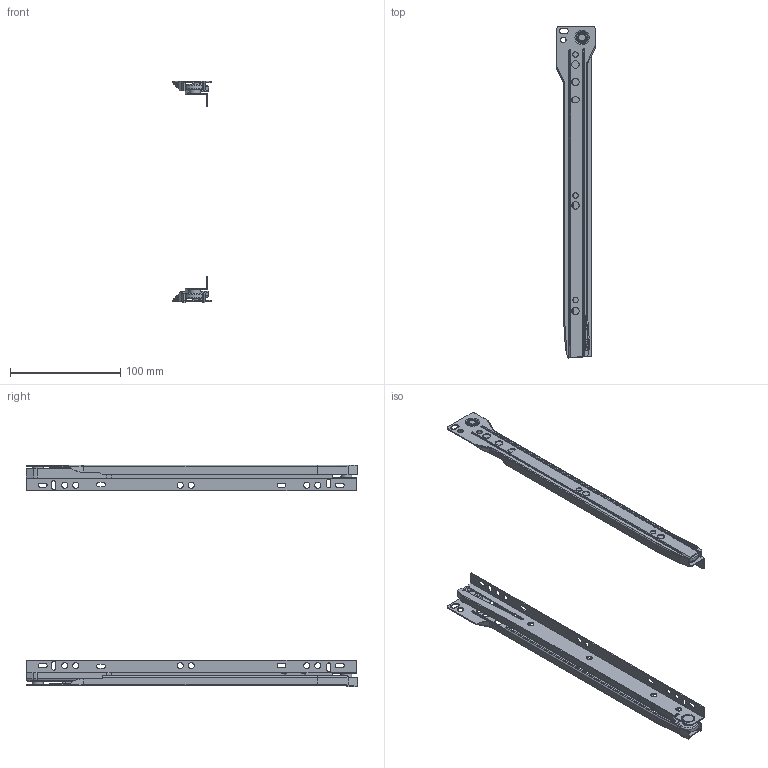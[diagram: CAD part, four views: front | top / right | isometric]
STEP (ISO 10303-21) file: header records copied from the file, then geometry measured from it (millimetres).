
FILE_DESCRIPTION(/* description */ (''),/* implementation_level */ '2;1');
FILE_NAME(/* name */ 'C:\Users\dmitruk\Documents\WORK\НАПРАВЛЯЮЩИЕ\Роликовые\Направляющие роликовая AKS 0.9 mm\Направляющие роликовая AKS 0.9 mm-300.stp',/* time_stamp */ '2022-07-29T15:04:54+03:00',/* author */ ('dmitruk'),/* organization */ (''),/* preprocessor_version */ 'ST-DEVELOPER v16.5',/* originating_system */ 'Autodesk Inventor 2017',/* authorisation */ '');
FILE_SCHEMA (('AUTOMOTIVE_DESIGN { 1 0 10303 214 3 1 1 }'));
Length unit declared in the file: millimetre
Products named in the file (5): Направляющие 
роликовая AKS 0.9 mm; rol_cr_09; rol_cl_09-01; rol_dr_09; rol_dl_09
Assembly tree (4 placements, depth 2):
  Направляющие 
роликовая AKS 0.9 mm
    rol_cr_09
    rol_cl_09-01
    rol_dr_09
    rol_dl_09
Bounding box: 35 x 301.38 x 201 mm (x, y, z)
Volume: 47018.4 mm3; surface area: 92384.1 mm2
Topology: 4 solids, 6 shells, 538 faces, 1391 edges, 872 vertices
Faces by surface type: plane 262, cylinder 201, cone 28, bspline 23, torus 22, sphere 2
Full cylindrical faces by diameter (mm): 5 x8, 5.5 x20, 6 x2, 6.1 x3, 6.8 x4, 7.8 x1, 9 x4, 10 x4, 14 x4, 19 x4
Entity records: 16872 total; most frequent: CARTESIAN_POINT 3199, DIRECTION 2819, ORIENTED_EDGE 2600, EDGE_CURVE 1294, AXIS2_PLACEMENT_3D 1015, VERTEX_POINT 872, LINE 789, VECTOR 789
